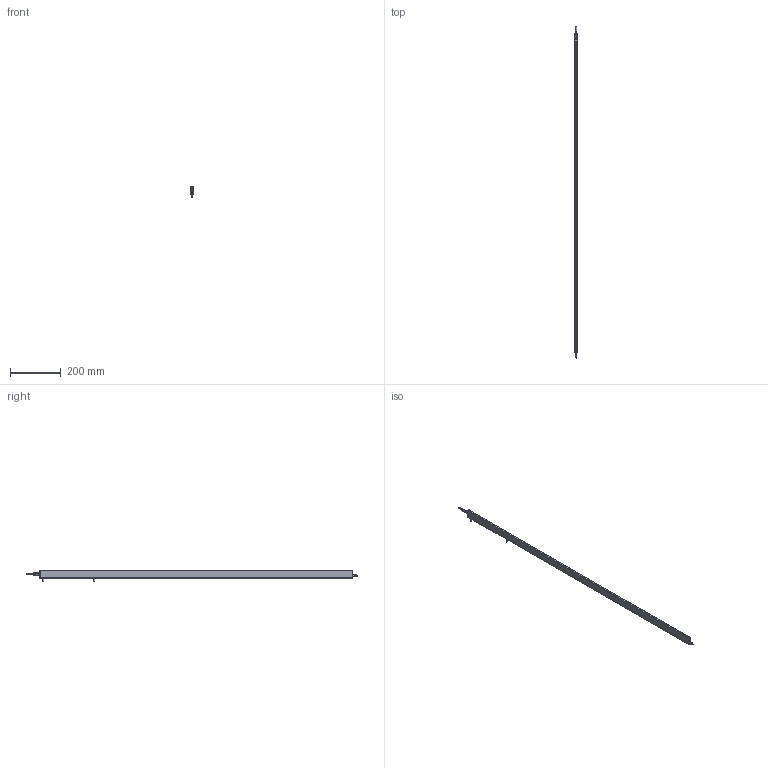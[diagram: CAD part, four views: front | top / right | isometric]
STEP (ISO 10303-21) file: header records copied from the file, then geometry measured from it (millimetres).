
FILE_DESCRIPTION (( 'STEP AP214' ), '1' );
FILE_NAME ('ILG-B-K2-1234mm.STEP', '2017-07-10T12:56:08', ( '' ), ( '' ), 'SwSTEP 2.0', 'SolidWorks 2016', '' );
FILE_SCHEMA (( 'AUTOMOTIVE_DESIGN' ));
Length unit declared in the file: millimetre
Products named in the file (1): ILG-B-K2-1234mm
Bounding box: 9 x 1307.5 x 46.21 mm (x, y, z)
Surface area: 207636.7 mm2 (no closed solid volume)
Topology: 0 solids, 15 shells, 702 faces, 1822 edges, 1157 vertices
Faces by surface type: cylinder 287, plane 266, cone 99, bspline 32, torus 18
Entity records: 31388 total; most frequent: CARTESIAN_POINT 6631, ORIENTED_EDGE 3597, DIRECTION 3488, EDGE_CURVE 1806, AXIS2_PLACEMENT_3D 1342, VERTEX_POINT 1157, LINE 804, VECTOR 804
